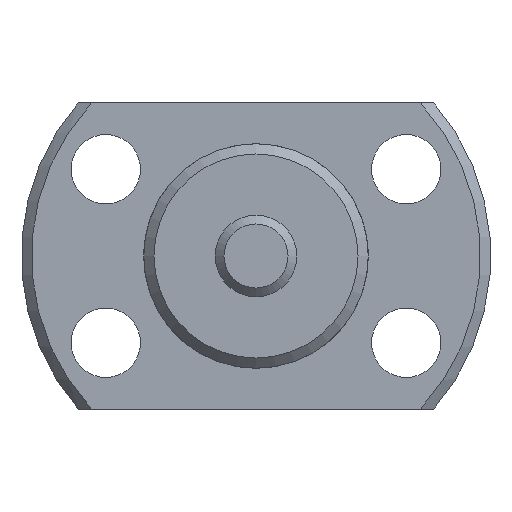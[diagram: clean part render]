
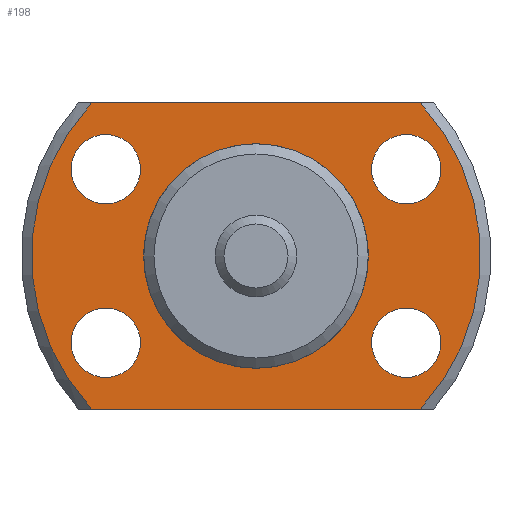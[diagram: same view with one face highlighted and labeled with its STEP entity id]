
A CAD part, left-side view. The second image highlights one B-rep face of the part: STEP entity #198.
In plain terms, the highlighted planar face has unit normal (-1, 0, 0).
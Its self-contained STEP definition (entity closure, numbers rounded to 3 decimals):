
#198 = ADVANCED_FACE( '', ( #296, #297, #298, #299, #300, #301 ), #302, .F. );
#296 = FACE_OUTER_BOUND( '', #427, .T. );
#297 = FACE_BOUND( '', #428, .T. );
#298 = FACE_BOUND( '', #429, .T. );
#299 = FACE_BOUND( '', #430, .T. );
#300 = FACE_BOUND( '', #431, .T. );
#301 = FACE_BOUND( '', #432, .T. );
#302 = PLANE( '', #433 );
#427 = EDGE_LOOP( '', ( #684, #685, #686, #687 ) );
#428 = EDGE_LOOP( '', ( #688 ) );
#429 = EDGE_LOOP( '', ( #689 ) );
#430 = EDGE_LOOP( '', ( #690 ) );
#431 = EDGE_LOOP( '', ( #691 ) );
#432 = EDGE_LOOP( '', ( #692 ) );
#433 = AXIS2_PLACEMENT_3D( '', #693, #694, #695 );
#684 = ORIENTED_EDGE( '', *, *, #905, .F. );
#685 = ORIENTED_EDGE( '', *, *, #903, .F. );
#686 = ORIENTED_EDGE( '', *, *, #918, .F. );
#687 = ORIENTED_EDGE( '', *, *, #916, .F. );
#688 = ORIENTED_EDGE( '', *, *, #889, .T. );
#689 = ORIENTED_EDGE( '', *, *, #891, .T. );
#690 = ORIENTED_EDGE( '', *, *, #893, .T. );
#691 = ORIENTED_EDGE( '', *, *, #895, .T. );
#692 = ORIENTED_EDGE( '', *, *, #919, .T. );
#693 = CARTESIAN_POINT( '', ( 13., 5.25, 0. ) );
#694 = DIRECTION( '', ( 1., 0., 0. ) );
#695 = DIRECTION( '', ( 0., 0., -1. ) );
#889 = EDGE_CURVE( '', #1036, #1036, #1037, .T. );
#891 = EDGE_CURVE( '', #1040, #1040, #1041, .T. );
#893 = EDGE_CURVE( '', #1044, #1044, #1045, .T. );
#895 = EDGE_CURVE( '', #1048, #1048, #1049, .T. );
#903 = EDGE_CURVE( '', #1063, #1065, #1066, .T. );
#905 = EDGE_CURVE( '', #1065, #1068, #1069, .T. );
#916 = EDGE_CURVE( '', #1068, #1086, #1087, .T. );
#918 = EDGE_CURVE( '', #1086, #1063, #1089, .T. );
#919 = EDGE_CURVE( '', #1090, #1090, #1091, .T. );
#1036 = VERTEX_POINT( '', #1294 );
#1037 = CIRCLE( '', #1295, 1.7 );
#1040 = VERTEX_POINT( '', #1298 );
#1041 = CIRCLE( '', #1299, 1.7 );
#1044 = VERTEX_POINT( '', #1302 );
#1045 = CIRCLE( '', #1303, 1.7 );
#1048 = VERTEX_POINT( '', #1306 );
#1049 = CIRCLE( '', #1307, 1.7 );
#1063 = VERTEX_POINT( '', #1330 );
#1065 = VERTEX_POINT( '', #1335 );
#1066 = LINE( '', #1336, #1337 );
#1068 = VERTEX_POINT( '', #1342 );
#1069 = CIRCLE( '', #1343, 11. );
#1086 = VERTEX_POINT( '', #1372 );
#1087 = LINE( '', #1373, #1374 );
#1089 = CIRCLE( '', #1379, 11. );
#1090 = VERTEX_POINT( '', #1380 );
#1091 = CIRCLE( '', #1381, 5.25 );
#1294 = CARTESIAN_POINT( '', ( 13., -7.361, -5.95 ) );
#1295 = AXIS2_PLACEMENT_3D( '', #1490, #1491, #1492 );
#1298 = CARTESIAN_POINT( '', ( 13., -7.361, 2.55 ) );
#1299 = AXIS2_PLACEMENT_3D( '', #1496, #1497, #1498 );
#1302 = CARTESIAN_POINT( '', ( 13., 7.361, -5.95 ) );
#1303 = AXIS2_PLACEMENT_3D( '', #1502, #1503, #1504 );
#1306 = CARTESIAN_POINT( '', ( 13., 7.361, 2.55 ) );
#1307 = AXIS2_PLACEMENT_3D( '', #1508, #1509, #1510 );
#1330 = CARTESIAN_POINT( '', ( 13., -8.047, -7.5 ) );
#1335 = CARTESIAN_POINT( '', ( 13., 8.047, -7.5 ) );
#1336 = CARTESIAN_POINT( '', ( 13., -16.5, -7.5 ) );
#1337 = VECTOR( '', #1517, 1000. );
#1342 = CARTESIAN_POINT( '', ( 13., 8.047, 7.5 ) );
#1343 = AXIS2_PLACEMENT_3D( '', #1518, #1519, #1520 );
#1372 = CARTESIAN_POINT( '', ( 13., -8.047, 7.5 ) );
#1373 = CARTESIAN_POINT( '', ( 13., 16.5, 7.5 ) );
#1374 = VECTOR( '', #1536, 1000. );
#1379 = AXIS2_PLACEMENT_3D( '', #1537, #1538, #1539 );
#1380 = CARTESIAN_POINT( '', ( 13., 0., -5.25 ) );
#1381 = AXIS2_PLACEMENT_3D( '', #1540, #1541, #1542 );
#1490 = CARTESIAN_POINT( '', ( 13., -7.361, -4.25 ) );
#1491 = DIRECTION( '', ( 1., 0., 0. ) );
#1492 = DIRECTION( '', ( 0., 0., -1. ) );
#1496 = CARTESIAN_POINT( '', ( 13., -7.361, 4.25 ) );
#1497 = DIRECTION( '', ( 1., 0., 0. ) );
#1498 = DIRECTION( '', ( 0., 0., -1. ) );
#1502 = CARTESIAN_POINT( '', ( 13., 7.361, -4.25 ) );
#1503 = DIRECTION( '', ( 1., 0., 0. ) );
#1504 = DIRECTION( '', ( 0., 0., -1. ) );
#1508 = CARTESIAN_POINT( '', ( 13., 7.361, 4.25 ) );
#1509 = DIRECTION( '', ( 1., 0., 0. ) );
#1510 = DIRECTION( '', ( 0., 0., -1. ) );
#1517 = DIRECTION( '', ( 0., 1., 0. ) );
#1518 = CARTESIAN_POINT( '', ( 13., 0., 0. ) );
#1519 = DIRECTION( '', ( 1., 0., 0. ) );
#1520 = DIRECTION( '', ( 0., 0., -1. ) );
#1536 = DIRECTION( '', ( 0., -1., 0. ) );
#1537 = CARTESIAN_POINT( '', ( 13., 0., 0. ) );
#1538 = DIRECTION( '', ( 1., 0., 0. ) );
#1539 = DIRECTION( '', ( 0., 0., -1. ) );
#1540 = CARTESIAN_POINT( '', ( 13., 0., 0. ) );
#1541 = DIRECTION( '', ( 1., 0., 0. ) );
#1542 = DIRECTION( '', ( 0., 0., -1. ) );
